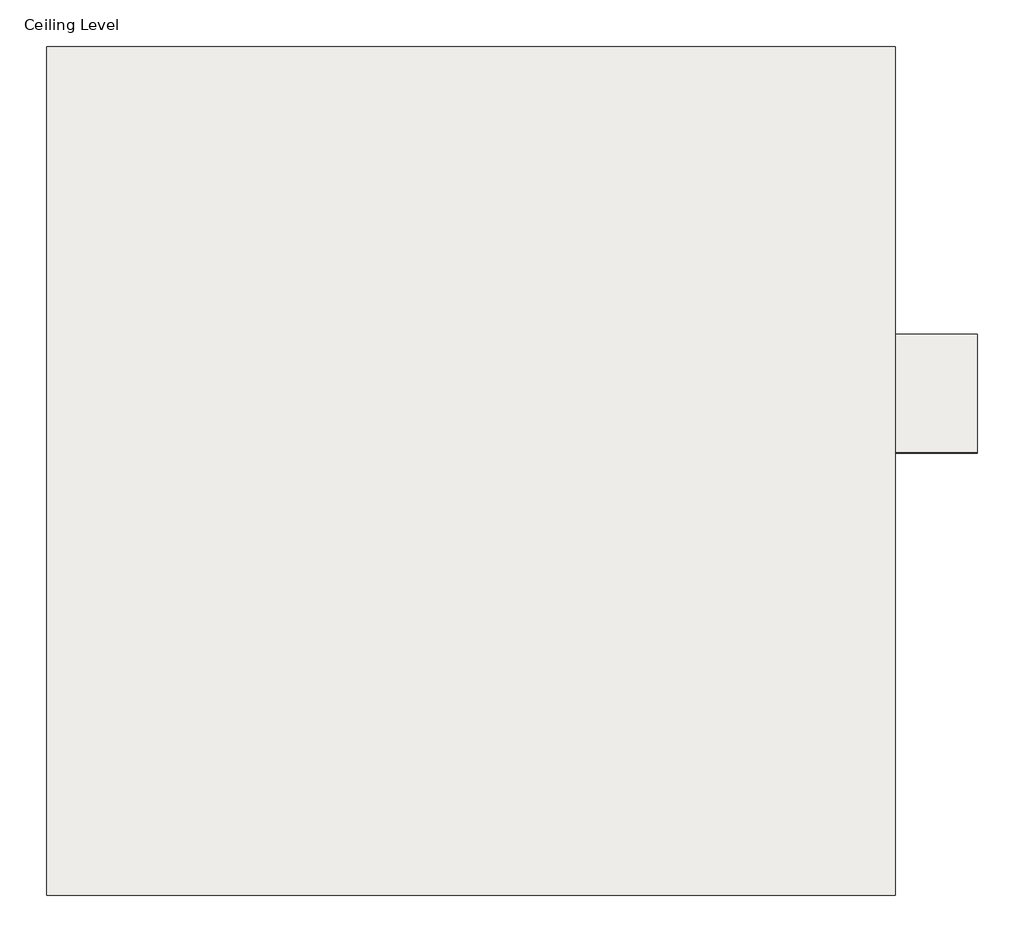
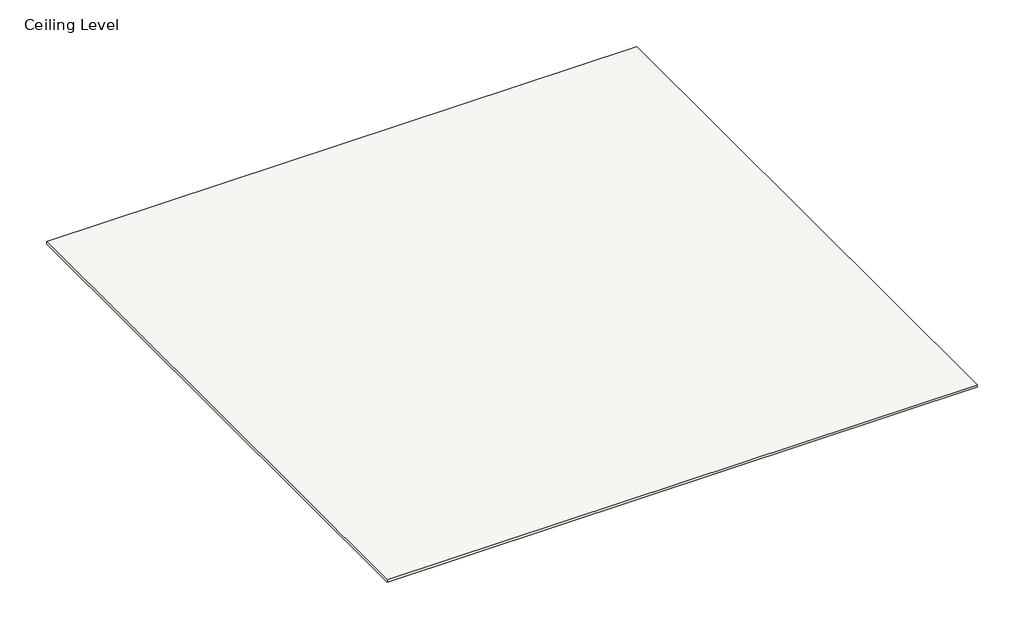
# One storey: 5 coverings.
"""IFC4 building model written with IfcOpenShell, lengths in millimetres."""

import ifcopenshell
import ifcopenshell.guid

model = None  # the IFC model being written
_history = None  # IfcOwnerHistory: only IFC2X3 demands one
_inside = {}  # id of a spatial element -> (the spatial element, [elements in it])
_under = {}  # id of a project, library or spatial element -> (it, [spatial elements below it])
_declared = {}  # id of a project -> (the project, [libraries it declares])
_typed = {}  # id of a type object -> (the type object, [elements of that type])
_made_of = {}  # id of a material, layer set ... -> (it, [elements and type objects made of it])


def new_model(schema):
    """Start an empty IFC model of exactly this schema.

    Asked for "IFC4X3", IfcOpenShell would pick the latest addendum, in which some entities
    have other attributes; the version numbers below select the first issue.
    IFC2X3 requires an IfcOwnerHistory on every rooted entity: one is made here for all.
    """
    global model, _history
    if schema == "IFC4X3":
        model = ifcopenshell.file(schema_version=(4, 3, 0, 0))
    else:
        model = ifcopenshell.file(schema=schema)
    _inside.clear()
    _under.clear()
    _declared.clear()
    _typed.clear()
    _made_of.clear()
    _history = None
    if model.schema == "IFC2X3":
        org = make("IfcOrganization", Name="unknown")
        user = make(
            "IfcPersonAndOrganization",
            ThePerson=make("IfcPerson", FamilyName="unknown"),
            TheOrganization=org,
        )
        app = make(
            "IfcApplication",
            ApplicationDeveloper=org,
            Version="unknown",
            ApplicationFullName="unknown",
            ApplicationIdentifier="unknown",
        )
        _history = make(
            "IfcOwnerHistory",
            OwningUser=user,
            OwningApplication=app,
            ChangeAction="ADDED",
            CreationDate=0,
        )
    return model


def make(cls, **values):
    """One entity of the class cls with the attributes given. An attribute that is None is left unset."""
    return model.create_entity(
        cls, **{name: value for name, value in values.items() if value is not None}
    )


def rooted(cls, **values):
    """An entity with a GlobalId (a new one), such as an element, a storey or a relation."""
    return make(cls, GlobalId=ifcopenshell.guid.new(), OwnerHistory=_history, **values)


def si_unit(unit_type, name, prefix=None):
    """IfcSIUnit, for example si_unit("LENGTHUNIT", "METRE", prefix="MILLI")."""
    return make("IfcSIUnit", UnitType=unit_type, Prefix=prefix, Name=name)


def assignment(units):
    """IfcUnitAssignment: the units of a project."""
    return None if units is None else make("IfcUnitAssignment", Units=units)


def point(xyz):
    """IfcCartesianPoint."""
    return None if xyz is None else make("IfcCartesianPoint", Coordinates=xyz)


def direction(xyz):
    """IfcDirection."""
    return None if xyz is None else make("IfcDirection", DirectionRatios=xyz)


def frame(location, z_axis=None, x_axis=None):
    """IfcAxis2Placement3D, a coordinate frame: its origin and axes. An axis left out is left unset."""
    return make(
        "IfcAxis2Placement3D",
        Location=point(location),
        Axis=direction(z_axis),
        RefDirection=direction(x_axis),
    )


def origin():
    """The frame at (0, 0, 0) with its axes left unset."""
    return frame((0.0, 0.0, 0.0))


def place(relative_to, where):
    """IfcLocalPlacement: puts the frame where relative to a parent placement (None: the world)."""
    return make(
        "IfcLocalPlacement", PlacementRelTo=relative_to, RelativePlacement=where
    )


def context(
    kind, dimensions, precision=None, world=None, true_north=None, identifier=None
):
    """IfcGeometricRepresentationContext, for example the 3D "Model" context."""
    return make(
        "IfcGeometricRepresentationContext",
        ContextIdentifier=identifier,
        ContextType=kind,
        CoordinateSpaceDimension=dimensions,
        Precision=precision,
        WorldCoordinateSystem=world,
        TrueNorth=true_north,
    )


def project(units=None, contexts=None):
    """IfcProject with its units and contexts."""
    return rooted(
        "IfcProject",
        Name="project",
        RepresentationContexts=contexts,
        UnitsInContext=assignment(units),
    )


def spatial(cls, under=None, at=None, **own):
    """A site, building, storey or space (cls), placed at a placement, below another one or the project."""
    s = rooted(cls, ObjectPlacement=at, **own)
    if under is not None:
        _under.setdefault(under.id(), (under, []))[1].append(s)
    return s


def polyline(points):
    """IfcPolyline through the points."""
    return make("IfcPolyline", Points=[point(p) for p in points])


def outline(outer, holes=None, kind="AREA"):
    """IfcArbitraryClosedProfileDef: a profile drawn as a closed curve; with holes, ...WithVoids."""
    if holes is None:
        return make("IfcArbitraryClosedProfileDef", ProfileType=kind, OuterCurve=outer)
    return make(
        "IfcArbitraryProfileDefWithVoids",
        ProfileType=kind,
        OuterCurve=outer,
        InnerCurves=holes,
    )


def extrude(swept, where, along, depth):
    """IfcExtrudedAreaSolid: the profile swept, set in the frame where, extruded along a direction by depth."""
    return make(
        "IfcExtrudedAreaSolid",
        SweptArea=swept,
        Position=where,
        ExtrudedDirection=direction(along),
        Depth=depth,
    )


def shape(context_of_items, identifier, shape_type, items):
    """IfcShapeRepresentation: the items that make up one representation, for example the "Body"."""
    return make(
        "IfcShapeRepresentation",
        ContextOfItems=context_of_items,
        RepresentationIdentifier=identifier,
        RepresentationType=shape_type,
        Items=items,
    )


def made_of(thing, what):
    """Note that an element or type object is made of a material, layer set ...; save() writes the relation."""
    if what is not None:
        _made_of.setdefault(what.id(), (what, []))[1].append(thing)
    return thing


def element(
    cls,
    number,
    at=None,
    inside=None,
    cuts=None,
    type_object=None,
    material=None,
    context=None,
    identifier="Body",
    shape_type=None,
    held_by="IfcProductDefinitionShape",
    body=None,
    shapes=None,
    **own,
):
    """One element of the class cls, such as IfcWall. Its Tag is "e" and its number.

    at: its placement. inside: the storey or other place that contains it. cuts: it is an
    opening in that element (IfcRelVoidsElement). A single representation is given by context,
    identifier, shape_type and body (its items); several are given by shapes. held_by: the class
    of the entity that holds the representations. save() writes the other relations.
    """
    e = rooted(cls, Tag="e%d" % number, ObjectPlacement=at, **own)
    if body is not None:
        shapes = [shape(context, identifier, shape_type, body)]
    if shapes is not None:
        e.Representation = make(held_by, Representations=shapes)
    if inside is not None:
        _inside.setdefault(inside.id(), (inside, []))[1].append(e)
    if cuts is not None:
        rooted(
            "IfcRelVoidsElement", RelatingBuildingElement=cuts, RelatedOpeningElement=e
        )
    if type_object is not None:
        _typed.setdefault(type_object.id(), (type_object, []))[1].append(e)
    return made_of(e, material)


def aggregate(whole, parts):
    """IfcRelAggregates: a whole, such as a stair, and the parts it consists of."""
    return rooted("IfcRelAggregates", RelatingObject=whole, RelatedObjects=parts)


def save(model, path):
    """Write the relations noted so far, then the file.

    IfcRelAggregates (storeys below a building ...), IfcRelContainedInSpatialStructure (elements
    in a storey), IfcRelDefinesByType, IfcRelAssociatesMaterial and IfcRelDeclares: one each for
    every whole, place, type object, material and project.
    """
    for whole, parts in _under.values():
        aggregate(whole, parts)
    for where, things in _inside.values():
        rooted(
            "IfcRelContainedInSpatialStructure",
            RelatedElements=things,
            RelatingStructure=where,
        )
    for kind, things in _typed.values():
        rooted("IfcRelDefinesByType", RelatedObjects=things, RelatingType=kind)
    for what, things in _made_of.values():
        rooted("IfcRelAssociatesMaterial", RelatedObjects=things, RelatingMaterial=what)
    for by, libraries in _declared.values():
        rooted("IfcRelDeclares", RelatingContext=by, RelatedDefinitions=libraries)
    model.write(path)


model = new_model("IFC4")

# Units and contexts
model_context = context("Model", 3, world=origin())
ifc_project = project(units=[si_unit("LENGTHUNIT", "METRE", prefix="MILLI")], contexts=[model_context])

# Site, building, storey
site = spatial("IfcSite", under=ifc_project)
building = spatial("IfcBuilding", under=site)
storey = spatial("IfcBuildingStorey", under=building, Name="Ceiling Level", Elevation=0.0)

# Coverings
placement = place(None, origin())
element("IfcCovering", 1, ObjectType="Rockfon Classic A15 1200 x 600 x 15 mm", at=placement, inside=storey, context=model_context, shape_type="SweptSolid", body=[
    extrude(outline(polyline([(-7080.9781072, 9505.7122432), (-7080.9781072, 5905.7122432), (-10680.9781072, 5905.7122432), (-10680.9781072, 9505.7122432), (-7080.9781072, 9505.7122432)])), frame((0.0, 0.0, 1.0), z_axis=(0.0, 0.0, 1.0), x_axis=(1.0, 0.0, 0.0)), (0.0, 0.0, 1.0), 15.0),
])
element("IfcCovering", 2, ObjectType="Rockfon Classic E24 600 x 600 x 20 mm", at=placement, inside=storey, context=model_context, shape_type="SweptSolid", body=[
    extrude(outline(polyline([(-6733.0033126, 8280.4374033), (-6733.0033126, 7780.4374033), (-7133.0033126, 7780.4374033), (-7133.0033126, 8280.4374033), (-6733.0033126, 8280.4374033)])), frame((0.0, 0.0, -1293.6941345), z_axis=(0.0, 0.0, 1.0), x_axis=(1.0, 0.0, 0.0)), (0.0, 0.0, 1.0), 20.0),
])
element("IfcCovering", 3, ObjectType="Rockfon Classic E15 600 x 600 x 15 mm", at=placement, inside=storey, context=model_context, shape_type="SweptSolid", body=[
    extrude(outline(polyline([(-6733.0033126, 8282.0973238), (-6733.0033126, 7782.0973238), (-7133.0033126, 7782.0973238), (-7133.0033126, 8282.0973238), (-6733.0033126, 8282.0973238)])), frame((0.0, 0.0, -1075.0992462), z_axis=(0.0, 0.0, 1.0), x_axis=(1.0, 0.0, 0.0)), (0.0, 0.0, 1.0), 15.0),
])
element("IfcCovering", 4, ObjectType="Rockfon Classic A24 600 x 600 x 20 mm", at=placement, inside=storey, context=model_context, shape_type="SweptSolid", body=[
    extrude(outline(polyline([(-6733.0033126, 8285.6100689), (-6733.0033126, 7785.6100689), (-7133.0033126, 7785.6100689), (-7133.0033126, 8285.6100689), (-6733.0033126, 8285.6100689)])), frame((0.0, 0.0, -836.7045614), z_axis=(0.0, 0.0, 1.0), x_axis=(1.0, 0.0, 0.0)), (0.0, 0.0, 1.0), 20.0),
])
element("IfcCovering", 5, ObjectType="Rockfon Classic A15 600 x 600 x 20 mm", at=placement, inside=storey, context=model_context, shape_type="SweptSolid", body=[
    extrude(outline(polyline([(-6733.0033126, 8285.6100689), (-6733.0033126, 7785.6100689), (-7133.0033126, 7785.6100689), (-7133.0033126, 8285.6100689), (-6733.0033126, 8285.6100689)])), frame((0.0, 0.0, -603.6252829), z_axis=(0.0, 0.0, 1.0), x_axis=(1.0, 0.0, 0.0)), (0.0, 0.0, 1.0), 20.0),
])

save(model, "model.ifc")
